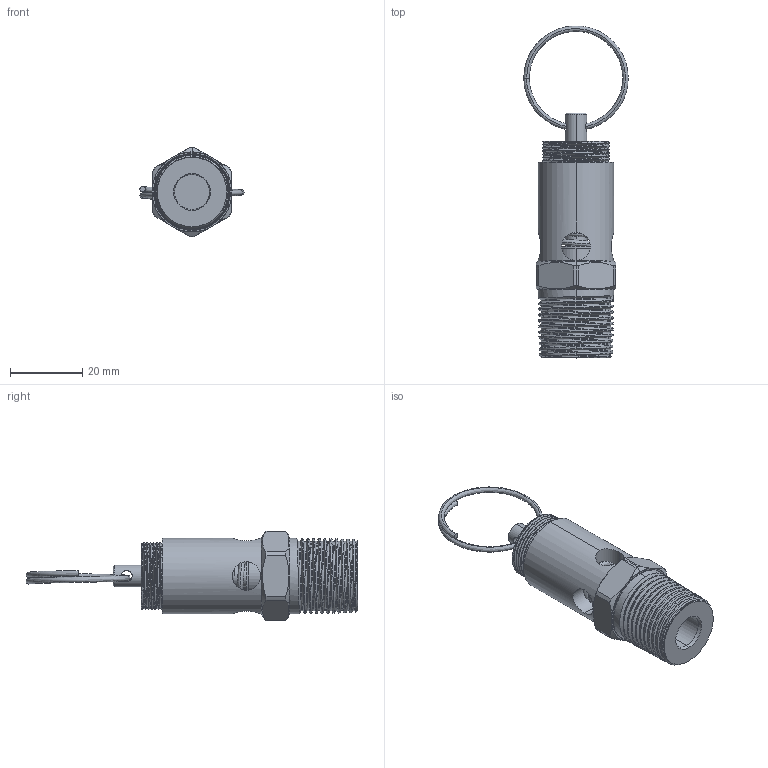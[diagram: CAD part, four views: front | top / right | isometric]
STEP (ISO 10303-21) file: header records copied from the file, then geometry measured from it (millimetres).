
FILE_DESCRIPTION (( 'STEP AP203' ), '1' );
FILE_NAME ('CV4-SERIES.STEP', '2019-04-26T19:31:22', ( '' ), ( '' ), 'SwSTEP 2.0', 'SolidWorks 2017', '' );
FILE_SCHEMA (( 'CONFIG_CONTROL_DESIGN' ));
Length unit declared in the file: inch
Products named in the file (2): CV4-SERIES
Bounding box: 28.96 x 92.2 x 24.76 mm (x, y, z)
Volume: 18058.3 mm3; surface area: 9808 mm2
Topology: 3 solids, 3 shells, 143 faces, 382 edges, 251 vertices
Faces by surface type: cylinder 47, cone 38, torus 25, plane 22, bspline 11
Entity records: 15674 total; most frequent: CARTESIAN_POINT 12272, ORIENTED_EDGE 760, DIRECTION 574, EDGE_CURVE 380, VERTEX_POINT 247, AXIS2_PLACEMENT_3D 240, EDGE_LOOP 157, B_SPLINE_CURVE_WITH_KNOTS 151
